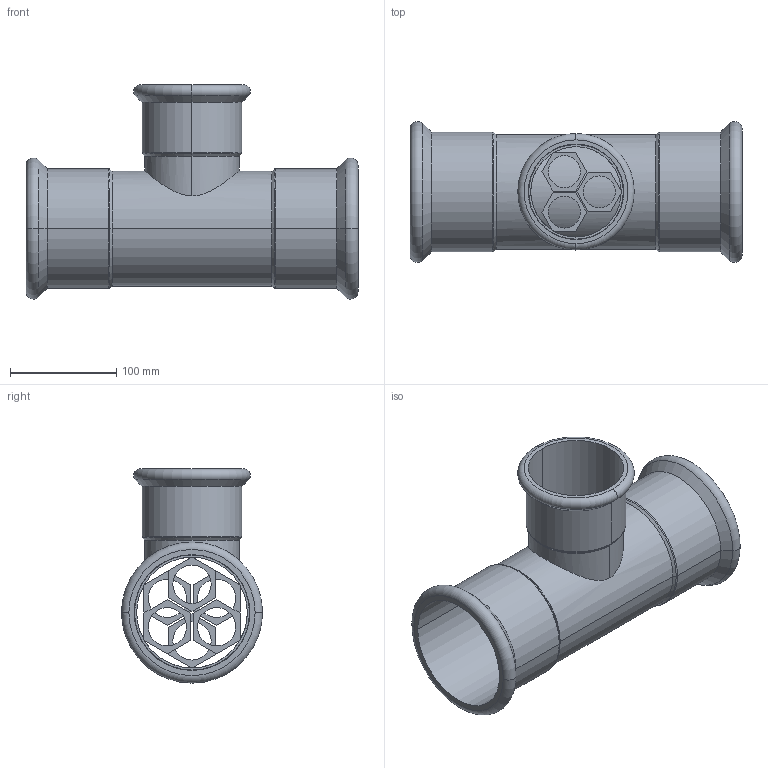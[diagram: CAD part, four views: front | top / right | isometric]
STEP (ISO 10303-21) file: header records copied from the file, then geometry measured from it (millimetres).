
FILE_DESCRIPTION(('OneSpaceDesigner STEP Export'),'2;1');
FILE_NAME('R2715 108x89x108.stp','2010-06-10T 9:46:03',(''),(''),'OneSpace Designer STEP processor for AP214 (Solid Model)','OneSpace Modeling 15.00A 14-Mar-2007 (C) CoCreate Software GmbH','');
FILE_SCHEMA(('AUTOMOTIVE_DESIGN { 1 0 10303 214 1 1 1 1 }'));
Length unit declared in the file: millimetre
Products named in the file (2): R2715_108x89x108
Assembly tree (1 placements, depth 2):
  R2715_108x89x108
    R2715_108x89x108
Bounding box: 312 x 132.58 x 201.29 mm (x, y, z)
Volume: 423183.5 mm3; surface area: 302260.6 mm2
Topology: 1 solids, 1 shells, 168 faces, 421 edges, 272 vertices
Faces by surface type: plane 90, cylinder 54, cone 12, torus 12
Entity records: 6057 total; most frequent: CARTESIAN_POINT 2370, ORIENTED_EDGE 842, DIRECTION 629, EDGE_CURVE 421, VERTEX_POINT 272, VECTOR 263, LINE 263, EDGE_LOOP 205
